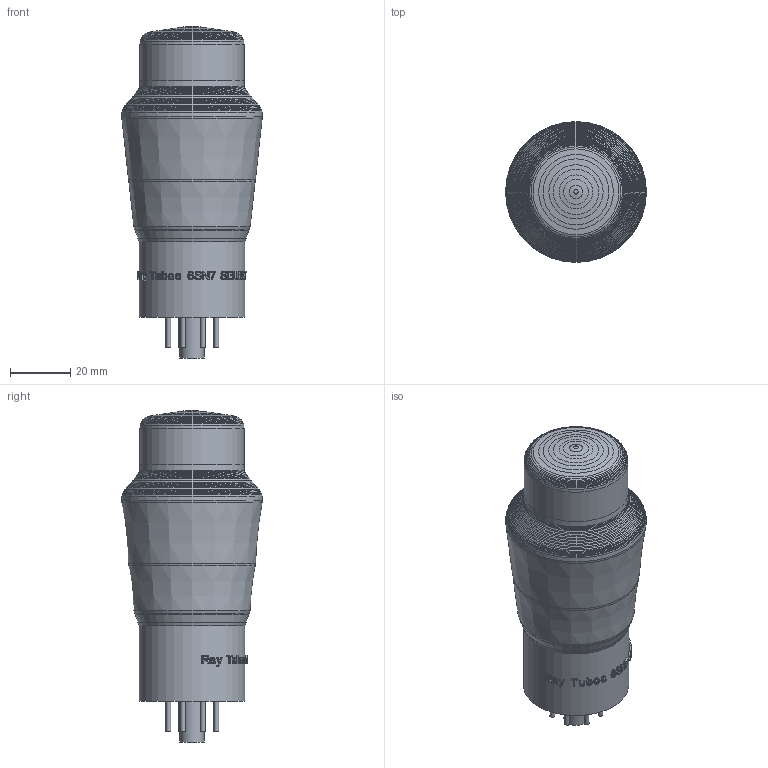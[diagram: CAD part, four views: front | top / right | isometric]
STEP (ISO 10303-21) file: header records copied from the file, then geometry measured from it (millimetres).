
FILE_DESCRIPTION(('Open CASCADE Model'),'2;1');
FILE_NAME('Open CASCADE Shape Model','2026-06-14T09:52:48',('Author'),( 'Open CASCADE'),'Open CASCADE STEP processor 7.8','Open CASCADE 7.8' ,'Unknown');
FILE_SCHEMA(('AUTOMOTIVE_DESIGN { 1 0 10303 214 1 1 1 1 }'));
Length unit declared in the file: millimetre
Products named in the file (6): Ray_Tubes_6SN7_SELECT_from_DXF_mm; Socket_layer; Socket_key_layer; Glas_layer; Pin_layer; Model_label_layer
Assembly tree (5 placements, depth 2):
  Ray_Tubes_6SN7_SELECT_from_DXF_mm
    Socket_layer
    Socket_key_layer
    Glas_layer
    Pin_layer
    Model_label_layer
Bounding box: 46.65 x 46.65 x 110 mm (x, y, z)
Volume: 113079.4 mm3; surface area: 16518.3 mm2
Topology: 29 solids, 29 shells, 488 faces, 1233 edges, 803 vertices
Faces by surface type: extrusion 254, plane 166, cone 57, cylinder 11
Full cylindrical faces by diameter (mm): 1.6 x8, 8 x1, 34.509 x1, 35 x1
Entity records: 15126 total; most frequent: CARTESIAN_POINT 4054, ORIENTED_EDGE 2466, DIRECTION 1538, EDGE_CURVE 1233, VECTOR 900, VERTEX_POINT 803, B_SPLINE_CURVE_WITH_KNOTS 762, LINE 646
